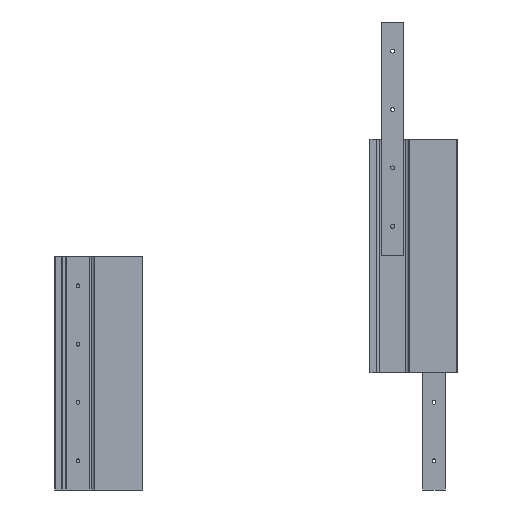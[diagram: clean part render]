
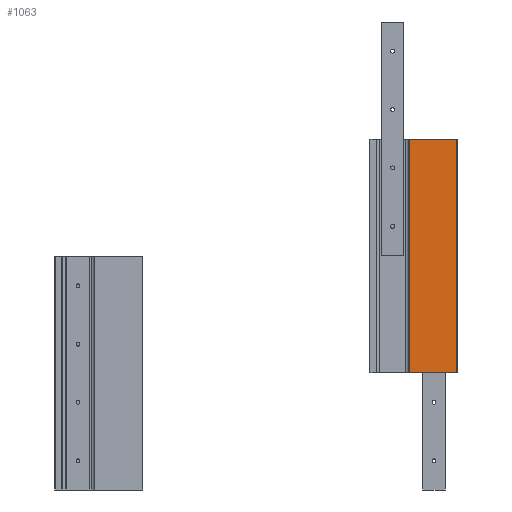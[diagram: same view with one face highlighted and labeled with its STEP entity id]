
A CAD part, front view. The second image highlights one B-rep face of the part: STEP entity #1063.
In plain terms, the highlighted planar face has unit normal (0, -1, 0) as drawn and (1, 0, 0) by its records, which use the part's own axes.
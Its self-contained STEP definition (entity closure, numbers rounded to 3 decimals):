
#1005=CARTESIAN_POINT('',(17.,74.5,400.0));
#1006=VERTEX_POINT('',#1005);
#1014=CARTESIAN_POINT('',(17.,74.5,0.0));
#1015=VERTEX_POINT('',#1014);
#1016=CARTESIAN_POINT('',(17.,74.5,0.0));
#1017=DIRECTION('',(0.0,0.0,1.0));
#1018=VECTOR('',#1017,400.0);
#1019=LINE('',#1016,#1018);
#1020=EDGE_CURVE('',#1015,#1006,#1019,.T.);
#1033=CARTESIAN_POINT('',(17.,74.5,0.0));
#1034=DIRECTION('',(1.0,0.0,0.0));
#1035=DIRECTION('',(0.0,0.0,-1.0));
#1036=AXIS2_PLACEMENT_3D('',#1033,#1034,#1035);
#1037=PLANE('',#1036);
#1038=CARTESIAN_POINT('',(17.,-7.,400.0));
#1039=VERTEX_POINT('',#1038);
#1040=CARTESIAN_POINT('',(17.,74.5,400.0));
#1041=DIRECTION('',(0.0,-1.0,0.0));
#1042=VECTOR('',#1041,81.5);
#1043=LINE('',#1040,#1042);
#1044=EDGE_CURVE('',#1006,#1039,#1043,.T.);
#1045=ORIENTED_EDGE('',*,*,#1044,.T.);
#1046=CARTESIAN_POINT('',(17.,-7.,0.0));
#1047=VERTEX_POINT('',#1046);
#1048=CARTESIAN_POINT('',(17.,-7.,0.0));
#1049=DIRECTION('',(0.0,0.0,1.0));
#1050=VECTOR('',#1049,400.0);
#1051=LINE('',#1048,#1050);
#1052=EDGE_CURVE('',#1047,#1039,#1051,.T.);
#1053=ORIENTED_EDGE('',*,*,#1052,.F.);
#1054=CARTESIAN_POINT('',(17.,-7.,0.0));
#1055=DIRECTION('',(0.0,1.0,0.0));
#1056=VECTOR('',#1055,81.5);
#1057=LINE('',#1054,#1056);
#1058=EDGE_CURVE('',#1047,#1015,#1057,.T.);
#1059=ORIENTED_EDGE('',*,*,#1058,.T.);
#1060=ORIENTED_EDGE('',*,*,#1020,.T.);
#1061=EDGE_LOOP('',(#1045,#1053,#1059,#1060));
#1062=FACE_OUTER_BOUND('',#1061,.T.);
#1063=ADVANCED_FACE('',(#1062),#1037,.T.);
